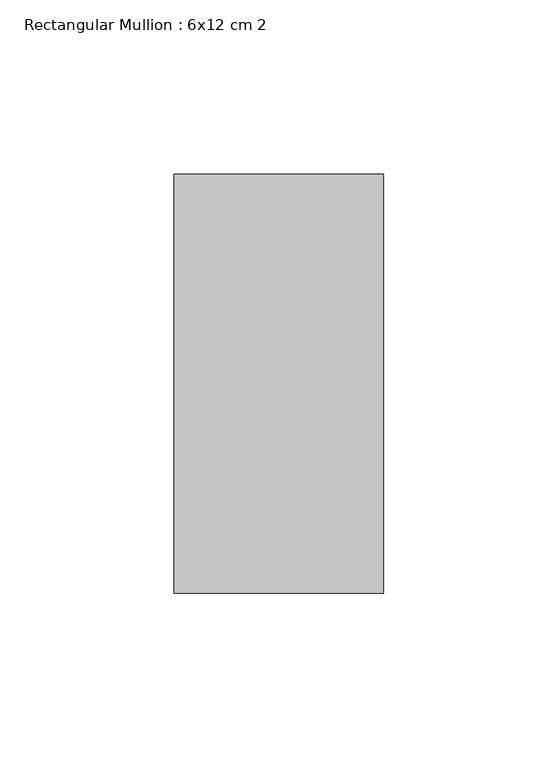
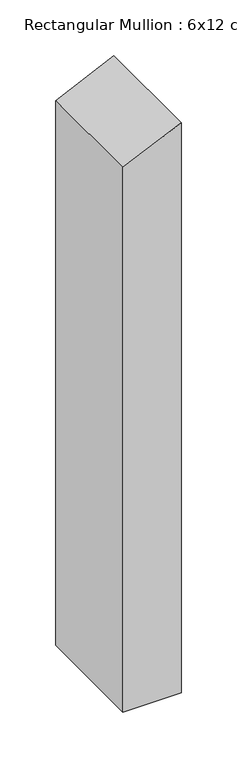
"""IFC4 building model written with IfcOpenShell, lengths in millimetres: member geometry, Rectangular Mullion : 6x12 cm 2."""

from ifc_helpers import new_model, si_unit, frame, origin, place, context, project, spatial, polyline, outline, extrude, source, transform, mapped, element, save


def rectangular_mullion_6x12_cm_2_617b5db4(model_context):
    return source(origin(), model_context, "Body", "SweptSolid", [
        extrude(outline(polyline([(39.335911, 0.0), (11.5488174, -60.0), (-583.4244271, -60.0), (-583.4244271, 0.0), (39.335911, 0.0)])), frame((0.0, 85.0, 0.0), z_axis=(0.0, 1.0, 0.0), x_axis=(0.0, 0.0, 1.0)), (0.0, 0.0, 1.0), 120.0),
    ])


if __name__ == "__main__":
    model = new_model("IFC4")
    model_context = context("Model", 3, world=origin())
    ifc_project = project(units=[si_unit("LENGTHUNIT", "METRE", prefix="MILLI")], contexts=[model_context])
    site = spatial("IfcSite", under=ifc_project)
    building = spatial("IfcBuilding", under=site)
    placement = place(None, origin())
    rectangular_mullion_6x12_cm_2_shape = rectangular_mullion_6x12_cm_2_617b5db4(model_context)
    element("IfcMember", 1, ObjectType="Rectangular Mullion : 6x12 cm 2", at=placement, inside=building, context=model_context, shape_type="MappedRepresentation", body=[
        mapped(rectangular_mullion_6x12_cm_2_shape, transform((0.0, 0.0, 0.0), x_axis=(1.0, 0.0, 0.0), y_axis=(0.0, 1.0, 0.0), z_axis=(0.0, 0.0, 1.0))),
    ])
    save(model, "model.ifc")
